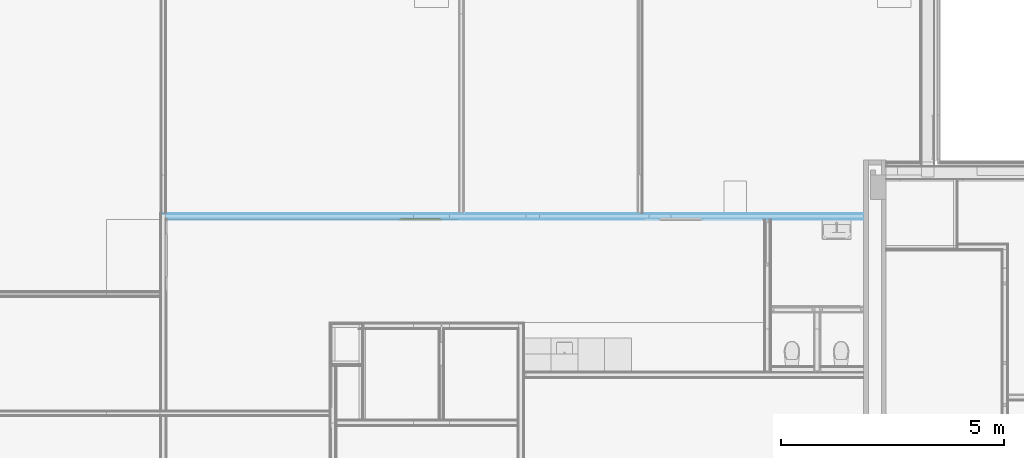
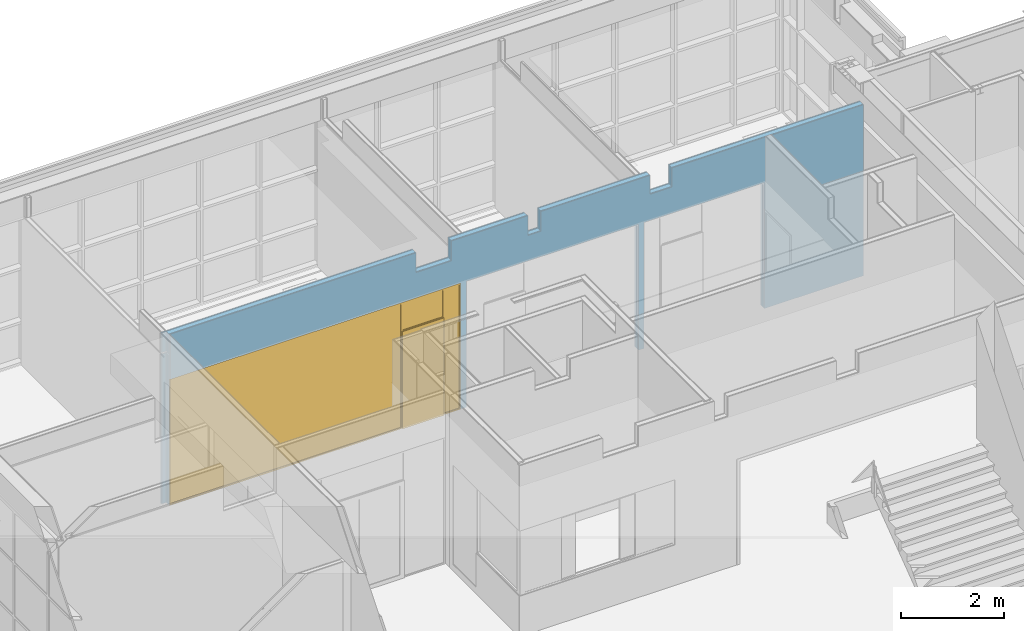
# One storey, part 48 of 109: 1 door, 3 openings, 1 element without a shape of its own, plus 5 elements that do not belong to this part.
"""IFC2X3 building model written with IfcOpenShell, lengths in millimetres."""

from ifc_helpers import new_model, entity, si_unit, converted_unit, derived_unit, money_unit, direction, frame, origin_with_axes, place, context, subcontext, project, spatial, open_shell, faceted_brep, surface_model, material, type_object, element, fill, aggregate, save


model = new_model("IFC2X3")

# Units and contexts
model_context = context("Model", 3, precision=0.01, world=origin_with_axes(), true_north=direction((0.0, 1.0)))
body_context = subcontext(model_context, "Body", "Model", "MODEL_VIEW")
ifc_project = project(units=[si_unit("LENGTHUNIT", "METRE", prefix="MILLI"), si_unit("AREAUNIT", "SQUARE_METRE"), si_unit("VOLUMEUNIT", "CUBIC_METRE"), converted_unit("PLANEANGLEUNIT", "DEGREE", entity("IfcPlaneAngleMeasure", 0.0174532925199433), si_unit("PLANEANGLEUNIT", "RADIAN"), dimensions=[0, 0, 0, 0, 0, 0, 0]), money_unit("EUR"), converted_unit("TIMEUNIT", "Year", entity("IfcTimeMeasure", 31557600.0), si_unit("TIMEUNIT", "SECOND"), dimensions=[0, 0, 1, 0, 0, 0, 0]), si_unit("MASSUNIT", "GRAM", prefix="KILO"), si_unit("THERMODYNAMICTEMPERATUREUNIT", "DEGREE_CELSIUS"), si_unit("LUMINOUSINTENSITYUNIT", "LUMEN"), si_unit("ENERGYUNIT", "JOULE", prefix="MEGA"), derived_unit("THERMALCONDUCTANCEUNIT", [(si_unit("POWERUNIT", "WATT"), 1), (si_unit("LENGTHUNIT", "METRE"), -1), (si_unit("THERMODYNAMICTEMPERATUREUNIT", "KELVIN"), -1)]), derived_unit("SPECIFICHEATCAPACITYUNIT", [(si_unit("ENERGYUNIT", "JOULE"), 1), (si_unit("MASSUNIT", "GRAM", prefix="KILO"), -1), (si_unit("THERMODYNAMICTEMPERATUREUNIT", "KELVIN"), -1)]), derived_unit("MASSDENSITYUNIT", [(si_unit("MASSUNIT", "GRAM", prefix="KILO"), 1), (si_unit("VOLUMEUNIT", "CUBIC_METRE"), -1)])], contexts=[model_context])

# Site, building, storey
site_placement = place(None, origin_with_axes())
site = spatial("IfcSite", under=ifc_project, at=site_placement, Name="<site naam>", CompositionType="ELEMENT")
building_placement = place(site_placement, origin_with_axes())
building = spatial("IfcBuilding", under=site, at=building_placement, Name="<Naam gebouw>", CompositionType="ELEMENT")
storey_placement = place(building_placement, origin_with_axes())
storey = spatial("IfcBuildingStorey", under=building, at=storey_placement, Name="00 Begane grond", CompositionType="ELEMENT", Elevation=0.0)

# Door
door_style = type_object("IfcDoorStyle", Name="D1 bl zl2 27", ConstructionType="NOTDEFINED", OperationType="USERDEFINED", ParameterTakesPrecedence=False, Sizeable=False)
wall_placement = place(storey_placement, frame((11665.00000000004, 18999.99999999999, 0.0), z_axis=(0.0, 0.0, 1.0), x_axis=(-1.0, 0.0, 0.0)))
opening_2_placement = place(wall_placement, frame((12331.66666666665, 0.0, 0.0), z_axis=(0.0, 0.0, 1.0), x_axis=(1.0, 0.0, 0.0)))
door_placement = place(opening_2_placement, frame((-3270.833333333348, 0.0, 0.0), z_axis=(0.0, 0.0, 1.0), x_axis=(1.0, 0.0, 0.0)))
door = element("IfcDoor", 1, at=door_placement, inside=storey, type_object=door_style, Name="22_BI-F-04_305", ObjectType="DOOR", OverallHeight=3000.0, OverallWidth=6541.67, context=body_context, shape_type="SurfaceModel", body=[
    faceted_brep([(1317.0, -39.99999999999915, 0.0), (1300.0, -39.99999999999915, 0.0), (1300.0, -39.99999999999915, 11.99999999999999), (1317.0, -39.99999999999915, 11.99999999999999), (383.0000000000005, -39.99999999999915, 0.0), (400.0000000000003, -39.99999999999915, 0.0), (400.0000000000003, -19.99999999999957, 0.0), (1300.0, -19.99999999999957, 0.0), (1300.0, -19.99999999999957, 11.99999999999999), (400.0000000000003, -19.99999999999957, 11.99999999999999), (400.0000000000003, -39.99999999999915, 11.99999999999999), (383.0000000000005, -39.99999999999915, 11.99999999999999)], [[[0, 1, 2, 3]], [[0, 4, 5, 6, 7, 1]], [[1, 7, 8, 2]], [[3, 2, 8, 9, 10, 11]], [[4, 0, 3, 11]], [[5, 4, 11, 10]], [[6, 5, 10, 9]], [[7, 6, 9, 8]]]),
    faceted_brep([(6541.666666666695, 0.0, 0.0), (6541.666666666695, -19.99999999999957, 0.0), (6508.666666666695, -19.99999999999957, 0.0), (6508.666666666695, 0.0, 0.0), (6541.666666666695, 0.0, 2967.0), (6541.666666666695, -19.99999999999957, 2967.0), (6508.666666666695, -19.99999999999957, 2967.0), (6508.666666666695, -19.99999999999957, 32.99999999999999), (6508.666666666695, 0.0, 32.99999999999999), (6508.666666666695, 0.0, 2967.0)], [[[0, 1, 2, 3]], [[4, 5, 1, 0]], [[1, 5, 6, 7, 2]], [[3, 2, 7, 8]], [[0, 3, 8, 9, 4]], [[9, 6, 5, 4]], [[8, 7, 6, 9]]]),
    faceted_brep([(1317.0, -19.99999999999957, 0.0), (1342.0, -19.99999999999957, 0.0), (1342.0, -19.99999999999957, 32.99999999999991), (1342.0, -19.99999999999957, 2967.0), (1300.0, -19.99999999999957, 2967.0), (1300.0, -19.99999999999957, 2333.0), (1300.0, -19.99999999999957, 2317.0), (1317.0, -19.99999999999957, 2317.0), (1317.0, 0.0, 0.0), (1342.0, 0.0, 0.0), (1342.0, 0.0, 32.99999999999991), (1342.0, 0.0, 2967.0), (1300.0, 0.0, 2967.0), (1300.0, 0.0, 2333.0), (1300.0, 0.0, 2317.0), (1317.0, 0.0, 2317.0)], [[[0, 1, 2, 3, 4, 5, 6, 7]], [[8, 9, 1, 0]], [[9, 10, 2, 1]], [[10, 11, 3, 2]], [[11, 12, 4, 3]], [[12, 13, 5, 4]], [[6, 5, 13, 14]], [[14, 15, 7, 6]], [[7, 15, 8, 0]], [[15, 14, 13, 12, 11, 10, 9, 8]]]),
    faceted_brep([(6508.666666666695, 0.0, 32.99999999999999), (6508.666666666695, -19.99999999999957, 32.99999999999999), (6508.666666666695, -19.99999999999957, 0.0), (6508.666666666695, 0.0, 0.0), (1342.0, 0.0, 32.99999999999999), (1342.0, -19.99999999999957, 32.99999999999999), (1342.0, -19.99999999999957, 0.0), (1342.0, 0.0, 0.0)], [[[0, 1, 2, 3]], [[4, 5, 1, 0]], [[1, 5, 6, 2]], [[3, 2, 6, 7]], [[0, 3, 7, 4]], [[7, 6, 5, 4]]]),
    faceted_brep([(0.0, 0.0, 0.0), (0.0, -19.99999999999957, 0.0), (0.0, -19.99999999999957, 2967.0), (0.0, 0.0, 2967.0), (32.99999999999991, 0.0, 0.0), (32.99999999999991, -19.99999999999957, 0.0), (32.99999999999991, -19.99999999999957, 32.99999999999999), (32.99999999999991, -19.99999999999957, 2967.0), (32.99999999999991, 0.0, 2967.0), (32.99999999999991, 0.0, 32.99999999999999)], [[[0, 1, 2, 3]], [[4, 5, 1, 0]], [[1, 5, 6, 7, 2]], [[3, 2, 7, 8]], [[0, 3, 8, 9, 4]], [[9, 6, 5, 4]], [[8, 7, 6, 9]]]),
    faceted_brep([(383.0000000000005, -19.99999999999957, 2317.0), (400.0000000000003, -19.99999999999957, 2317.0), (400.0000000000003, -19.99999999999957, 2333.0), (400.0000000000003, -19.99999999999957, 2967.0), (358.0000000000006, -19.99999999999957, 2967.0), (358.0000000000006, -19.99999999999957, 32.99999999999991), (358.0000000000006, -19.99999999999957, 0.0), (383.0000000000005, -19.99999999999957, 0.0), (383.0000000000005, 0.0, 2317.0), (400.0000000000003, 0.0, 2317.0), (400.0000000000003, 0.0, 2333.0), (400.0000000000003, 0.0, 2967.0), (358.0000000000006, 0.0, 2967.0), (358.0000000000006, 0.0, 32.99999999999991), (358.0000000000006, 0.0, 0.0), (383.0000000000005, 0.0, 0.0)], [[[0, 1, 2, 3, 4, 5, 6, 7]], [[0, 8, 9, 1]], [[9, 10, 2, 1]], [[10, 11, 3, 2]], [[11, 12, 4, 3]], [[12, 13, 5, 4]], [[13, 14, 6, 5]], [[7, 6, 14, 15]], [[7, 15, 8, 0]], [[8, 15, 14, 13, 12, 11, 10, 9]]]),
    faceted_brep([(358.0000000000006, 0.0, 32.99999999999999), (358.0000000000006, -19.99999999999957, 32.99999999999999), (358.0000000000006, -19.99999999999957, 0.0), (358.0000000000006, 0.0, 0.0), (32.99999999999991, 0.0, 32.99999999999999), (32.99999999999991, -19.99999999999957, 32.99999999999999), (32.99999999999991, -19.99999999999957, 0.0), (32.99999999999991, 0.0, 0.0)], [[[0, 1, 2, 3]], [[4, 5, 1, 0]], [[1, 5, 6, 2]], [[3, 2, 6, 7]], [[0, 3, 7, 4]], [[7, 6, 5, 4]]]),
    faceted_brep([(6541.666666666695, 0.0, 3000.0), (6541.666666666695, -19.99999999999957, 3000.0), (6541.666666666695, -19.99999999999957, 2967.0), (6541.666666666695, 0.0, 2967.0), (0.0, 0.0, 3000.0), (0.0, -19.99999999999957, 3000.0), (0.0, -19.99999999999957, 2967.0), (32.99999999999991, -19.99999999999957, 2967.0), (358.0000000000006, -19.99999999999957, 2967.0), (400.0000000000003, -19.99999999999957, 2967.0), (1300.0, -19.99999999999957, 2967.0), (1342.0, -19.99999999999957, 2967.0), (6508.666666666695, -19.99999999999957, 2967.0), (6508.666666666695, 0.0, 2967.0), (1342.0, 0.0, 2967.0), (1300.0, 0.0, 2967.0), (400.0000000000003, 0.0, 2967.0), (358.0000000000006, 0.0, 2967.0), (32.99999999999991, 0.0, 2967.0), (0.0, 0.0, 2967.0)], [[[0, 1, 2, 3]], [[4, 5, 1, 0]], [[1, 5, 6, 7, 8, 9, 10, 11, 12, 2]], [[3, 2, 12, 13]], [[0, 3, 13, 14, 15, 16, 17, 18, 19, 4]], [[19, 6, 5, 4]], [[18, 7, 6, 19]], [[17, 8, 7, 18]], [[16, 9, 8, 17]], [[15, 10, 9, 16]], [[14, 11, 10, 15]], [[13, 12, 11, 14]]]),
    faceted_brep([(1300.0, -19.99999999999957, 2317.0), (1300.0, -19.99999999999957, 2333.0), (400.0000000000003, -19.99999999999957, 2333.0), (400.0000000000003, -19.99999999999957, 2317.0), (1300.0, 0.0, 2317.0), (1300.0, 0.0, 2333.0), (400.0000000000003, 0.0, 2333.0), (400.0000000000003, 0.0, 2317.0)], [[[0, 1, 2, 3]], [[4, 5, 1, 0]], [[5, 6, 2, 1]], [[3, 2, 6, 7]], [[7, 4, 0, 3]], [[7, 6, 5, 4]]]),
    faceted_brep([(383.0000000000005, 18.00000000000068, 0.0), (1317.0, 18.00000000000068, 0.0), (1317.0, -21.99999999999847, 0.0), (383.0000000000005, -21.99999999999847, 0.0), (383.0000000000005, 18.00000000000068, 2317.0), (1317.0, 18.00000000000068, 2317.0), (1317.0, -21.99999999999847, 2317.0), (383.0000000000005, -21.99999999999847, 2317.0)], [[[0, 1, 2, 3]], [[0, 4, 5, 1]], [[1, 5, 6, 2]], [[3, 2, 6, 7]], [[4, 0, 3, 7]], [[5, 4, 7, 6]]]),
    surface_model("IfcShellBasedSurfaceModel", [(1300.0, -25.9999999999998, 2333.0), (1300.0, -25.9999999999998, 2967.0), (400.0000000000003, -25.9999999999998, 2967.0), (400.0000000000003, -25.9999999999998, 2333.0)], [open_shell([[[0, 1, 2, 3]]])]),
    surface_model("IfcShellBasedSurfaceModel", [(1300.0, -13.99999999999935, 2333.0), (400.0000000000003, -13.99999999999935, 2333.0), (400.0000000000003, -13.99999999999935, 2967.0), (1300.0, -13.99999999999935, 2967.0)], [open_shell([[[0, 1, 2, 3]]])]),
    surface_model("IfcShellBasedSurfaceModel", [(6508.666666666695, -25.9999999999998, 32.99999999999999), (6508.666666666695, -25.9999999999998, 2967.0), (1342.0, -25.9999999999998, 2967.0), (1342.0, -25.9999999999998, 32.99999999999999)], [open_shell([[[0, 1, 2, 3]]])]),
    surface_model("IfcShellBasedSurfaceModel", [(6508.666666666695, -13.99999999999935, 32.99999999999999), (1342.0, -13.99999999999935, 32.99999999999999), (1342.0, -13.99999999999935, 2967.0), (6508.666666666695, -13.99999999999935, 2967.0)], [open_shell([[[0, 1, 2, 3]]])]),
    surface_model("IfcShellBasedSurfaceModel", [(358.0000000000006, -25.9999999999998, 32.99999999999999), (358.0000000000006, -25.9999999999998, 2967.0), (33.00000000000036, -25.9999999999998, 2967.0), (33.00000000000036, -25.9999999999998, 32.99999999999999)], [open_shell([[[0, 1, 2, 3]]])]),
    surface_model("IfcShellBasedSurfaceModel", [(358.0000000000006, -13.99999999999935, 32.99999999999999), (33.00000000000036, -13.99999999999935, 32.99999999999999), (33.00000000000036, -13.99999999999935, 2967.0), (358.0000000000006, -13.99999999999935, 2967.0)], [open_shell([[[0, 1, 2, 3]]])]),
])

# Wall, openings
wall_type = type_object("IfcWallType", Name="MS-01 GF 150 ECO DGS/2.100.2.A 150", PredefinedType="NOTDEFINED")
wall = element("IfcWall", 2, at=wall_placement, inside=storey, type_object=wall_type, Name="22_Binnenwand_MS-01")
opening_1_placement = place(wall_placement, frame((3581.926295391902, 0.0, 0.0), z_axis=(0.0, 0.0, 1.0), x_axis=(1.0, 0.0, 0.0)))
element("IfcOpeningElement", 3, at=opening_1_placement, cuts=wall, Name="22_BI-F-07_305", context=body_context, shape_type="Brep", body=[
    faceted_brep([(-1353.907037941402, -150.9999999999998, 3000.0), (-1353.907037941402, -150.9999999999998, 0.0), (1353.907037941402, -150.9999999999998, 0.0), (1353.907037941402, -150.9999999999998, 3000.0), (-1353.907037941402, 1.000000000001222, 3000.0), (-1353.907037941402, 1.000000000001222, 0.0), (1353.907037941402, 1.000000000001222, 0.0), (1353.907037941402, 1.000000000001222, 3000.0)], [[[0, 1, 2, 3]], [[4, 5, 1, 0]], [[5, 6, 2, 1]], [[6, 7, 3, 2]], [[7, 4, 0, 3]], [[6, 5, 4, 7]]]),
])
opening_2 = element("IfcOpeningElement", 4, at=opening_2_placement, cuts=wall, Name="22_BI-F-04_305", context=body_context, shape_type="Brep", body=[
    faceted_brep([(-3270.833333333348, -151.0000000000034, 3000.0), (-3270.833333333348, -151.0000000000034, 0.0), (3270.833333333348, -151.0000000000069, 0.0), (3270.833333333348, -151.0000000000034, 3000.0), (-3270.833333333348, 1.000000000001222, 3000.0), (-3270.833333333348, 1.000000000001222, 0.0), (3270.833333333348, 0.9999999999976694, 0.0), (3270.833333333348, 1.000000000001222, 3000.0)], [[[0, 1, 2, 3]], [[4, 5, 1, 0]], [[5, 6, 2, 1]], [[6, 7, 3, 2]], [[7, 4, 0, 3]], [[6, 5, 4, 7]]]),
])

fill(opening_2, door)

# Opening
opening_3_placement = place(wall_placement, frame((6998.333333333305, 0.0, 0.0), z_axis=(0.0, 0.0, 1.0), x_axis=(1.0, 0.0, 0.0)))
element("IfcOpeningElement", 5, at=opening_3_placement, cuts=wall, Name="22_BI-F-05_305", context=body_context, shape_type="Brep", body=[
    faceted_brep([(-1937.499999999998, -150.9999999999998, 3000.0), (-1937.499999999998, -150.9999999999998, 0.0), (1937.499999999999, -150.9999999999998, 0.0), (1937.499999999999, -150.9999999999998, 3000.0), (-1937.499999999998, 1.000000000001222, 3000.0), (-1937.499999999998, 1.000000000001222, 0.0), (1937.499999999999, 1.000000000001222, 0.0), (1937.499999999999, 1.000000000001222, 3000.0)], [[[0, 1, 2, 3]], [[4, 5, 1, 0]], [[5, 6, 2, 1]], [[6, 7, 3, 2]], [[7, 4, 0, 3]], [[6, 5, 4, 7]]]),
])

# Building element part
ifc_material_1 = material(Name="gipsplaat")
building_element_part_1_placement = place(wall_placement, origin_with_axes())
building_element_part_1 = element("IfcBuildingElementPart", 6, at=building_element_part_1_placement, material=ifc_material_1, Name="gipsplaat", context=body_context, shape_type="Brep", body=[
    faceted_brep([(4802.5, -12.49999999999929, 4070.0), (4802.5, -12.49999999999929, 3620.0), (4302.5, -12.49999999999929, 3620.0), (4302.5, -12.49999999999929, 4070.0), (0.0, -12.49999999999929, 4070.0), (0.0, -12.49999999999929, 0.0), (2218.019240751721, -12.49999999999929, 0.0), (2218.019240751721, -12.49999999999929, 3.000000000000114), (4935.833333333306, -12.49999999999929, 3.000000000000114), (4935.833333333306, -12.49999999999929, 0.0), (5060.83331531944, -12.49999999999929, 0.0), (5060.83331531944, -12.49999999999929, 3.000000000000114), (8935.833333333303, -12.49999999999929, 3.000000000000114), (8935.833333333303, -12.49999999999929, 0.0), (9060.833333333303, -12.49999999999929, 0.0), (9060.833333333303, -12.49999999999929, 3.000000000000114), (15590.0, -12.49999999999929, 3.000000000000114), (15590.0, -12.49999999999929, 4070.0), (10065.00000000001, -12.49999999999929, 4070.0), (10065.00000000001, -12.49999999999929, 3600.0), (9265.000000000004, -12.49999999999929, 3600.0), (9265.000000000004, -12.49999999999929, 4070.0), (7550.000000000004, -12.49999999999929, 4070.0), (7550.000000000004, -12.49999999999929, 3600.0), (7250.000000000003, -12.49999999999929, 3600.0), (7250.000000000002, -12.49999999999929, 4070.0), (4802.5, 0.0, 3620.0), (4802.5, 0.0, 4070.0), (4302.5, 0.0, 3620.0), (4302.5, 0.0, 4070.0), (0.0, 0.0, 4070.0), (0.0, 0.0, 0.0), (2218.019240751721, 0.0, 0.0), (2218.019240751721, 0.0, 3.000000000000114), (4935.833333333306, 0.0, 3.000000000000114), (4935.833333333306, 0.0, 0.0), (5060.83331531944, 0.005247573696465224, 0.0), (5060.83331531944, 0.005247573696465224, 3.000000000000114), (8935.833333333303, 7.570282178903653e-06, 3.000000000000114), (8935.833333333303, 7.570282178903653e-06, 0.0), (9060.833333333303, 0.0, 0.0), (9060.833333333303, 0.0, 3.000000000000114), (15589.99999996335, -0.01546946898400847, 3.000000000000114), (15590.0, 0.0, 4070.0), (10065.00000000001, 0.0, 4070.0), (10065.00000000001, 0.0, 3600.0), (9265.000000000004, 0.0, 3600.0), (9265.000000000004, 0.0, 4070.0), (7550.000000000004, 0.0, 4070.0), (7550.000000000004, 0.0, 3600.0), (7250.000000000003, 0.0, 3600.0), (7250.000000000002, 0.0, 4070.0)], [[[0, 1, 2, 3, 4, 5, 6, 7, 8, 9, 10, 11, 12, 13, 14, 15, 16, 17, 18, 19, 20, 21, 22, 23, 24, 25]], [[26, 1, 0, 27]], [[28, 2, 1, 26]], [[28, 29, 3, 2]], [[4, 3, 29, 30]], [[4, 30, 31, 5]], [[31, 32, 6, 5]], [[33, 7, 6, 32]], [[34, 8, 7, 33]], [[35, 9, 8, 34]], [[36, 10, 9, 35]], [[11, 10, 36, 37]], [[12, 11, 37, 38]], [[13, 12, 38, 39]], [[14, 13, 39, 40]], [[14, 40, 41, 15]], [[15, 41, 42, 16]], [[42, 43, 17, 16]], [[17, 43, 44, 18]], [[44, 45, 19, 18]], [[45, 46, 20, 19]], [[20, 46, 47, 21]], [[21, 47, 48, 22]], [[48, 49, 23, 22]], [[49, 50, 24, 23]], [[24, 50, 51, 25]], [[51, 27, 0, 25]], [[28, 26, 27, 51, 50, 49, 48, 47, 46, 45, 44, 43, 34, 33, 32, 31, 30, 29]], [[36, 35, 34, 37]], [[39, 38, 37, 43, 42, 41, 40]], [[37, 34, 43]]]),
])

building_element_part_2_placement = place(wall_placement, origin_with_axes())
building_element_part_2 = element("IfcBuildingElementPart", 7, at=building_element_part_2_placement, material=ifc_material_1, Name="gipsplaat", context=body_context, shape_type="Brep", body=[
    faceted_brep([(4802.5, -24.99999999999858, 4070.0), (4802.5, -25.00000000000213, 3620.0), (4302.5, -25.00000000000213, 3620.0), (4302.5, -24.99999999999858, 4070.0), (0.0, -24.99999999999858, 4070.0), (0.0, -24.99999999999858, 0.0), (2218.019240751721, -24.99999999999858, 0.0), (2218.019240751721, -25.00000000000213, 3.000000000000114), (4935.833333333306, -25.00000000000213, 3.000000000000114), (4935.833333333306, -24.99999999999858, 0.0), (5060.83331531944, -24.99999999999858, 0.0), (5060.83331531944, -25.00000000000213, 3.000000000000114), (8935.833333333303, -25.00000000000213, 3.000000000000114), (8935.833333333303, -25.00000000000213, 0.0), (9060.833333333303, -25.00000000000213, 0.0), (9060.833333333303, -25.00000000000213, 3.000000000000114), (15602.5, -25.00000000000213, 3.000000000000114), (15602.5, -25.00000000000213, 3560.0), (15590.0000000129, -25.00000000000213, 3560.0), (15590.0000000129, -25.00000000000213, 3600.0), (15602.5, -25.00000000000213, 3600.0), (15602.5, -25.00000000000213, 4070.0), (10065.00000000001, -24.99999999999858, 4070.0), (10065.00000000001, -25.00000000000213, 3600.0), (9265.000000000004, -25.00000000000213, 3600.0), (9265.000000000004, -24.99999999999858, 4070.0), (7550.000000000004, -24.99999999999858, 4070.0), (7550.000000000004, -25.00000000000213, 3600.0), (7250.000000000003, -25.00000000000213, 3600.0), (7250.000000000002, -24.99999999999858, 4070.0), (4802.5, -12.49999999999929, 3620.0), (4802.5, -12.49999999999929, 4070.0), (4302.5, -12.49999999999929, 3620.0), (4302.5, -12.49999999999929, 4070.0), (0.0, -12.49999999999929, 4070.0), (0.0, -12.49999999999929, 0.0), (2218.019240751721, -12.49999999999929, 0.0), (2218.019240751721, -12.49999999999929, 3.000000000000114), (4935.833333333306, -12.49999999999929, 3.000000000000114), (4935.833333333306, -12.49999999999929, 0.0), (5060.83331531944, -12.49999999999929, 0.0), (5060.83331531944, -12.49999999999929, 3.000000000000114), (8935.833333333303, -12.49999999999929, 3.000000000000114), (8935.833333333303, -12.49999999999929, 0.0), (9060.833333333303, -12.49999999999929, 0.0), (9060.833333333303, -12.49999999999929, 3.000000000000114), (15602.5, -12.49999999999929, 3.000000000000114), (15602.5, -12.49999999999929, 3560.0), (15589.99999999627, -12.49999999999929, 3560.0), (15589.99999999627, -12.49999999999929, 3600.0), (15602.5, -12.49999999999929, 3600.0), (15602.5, -12.49999999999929, 4070.0), (10065.00000000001, -12.49999999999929, 4070.0), (10065.00000000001, -12.49999999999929, 3600.0), (9265.000000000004, -12.49999999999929, 3600.0), (9265.000000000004, -12.49999999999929, 4070.0), (7550.000000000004, -12.49999999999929, 4070.0), (7550.000000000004, -12.49999999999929, 3600.0), (7250.000000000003, -12.49999999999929, 3600.0), (7250.000000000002, -12.49999999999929, 4070.0)], [[[0, 1, 2, 3, 4, 5, 6, 7, 8, 9, 10, 11, 12, 13, 14, 15, 16, 17, 18, 19, 20, 21, 22, 23, 24, 25, 26, 27, 28, 29]], [[30, 1, 0, 31]], [[32, 2, 1, 30]], [[32, 33, 3, 2]], [[4, 3, 33, 34]], [[4, 34, 35, 5]], [[6, 5, 35, 36]], [[6, 36, 37, 7]], [[7, 37, 38, 8]], [[8, 38, 39, 9]], [[10, 9, 39, 40]], [[10, 40, 41, 11]], [[11, 41, 42, 12]], [[12, 42, 43, 13]], [[14, 13, 43, 44]], [[14, 44, 45, 15]], [[15, 45, 46, 16]], [[17, 16, 46, 47]], [[17, 47, 48, 18]], [[18, 48, 49, 19]], [[19, 49, 50, 20]], [[50, 51, 21, 20]], [[21, 51, 52, 22]], [[52, 53, 23, 22]], [[53, 54, 24, 23]], [[24, 54, 55, 25]], [[25, 55, 56, 26]], [[56, 57, 27, 26]], [[57, 58, 28, 27]], [[28, 58, 59, 29]], [[59, 31, 0, 29]], [[32, 30, 31, 59, 58, 57, 56, 55, 54, 53, 52, 51, 50, 49, 48, 47, 46, 45, 44, 43, 42, 41, 40, 39, 38, 37, 36, 35, 34, 33]]]),
])

building_element_part_3_placement = place(wall_placement, origin_with_axes())
building_element_part_3 = element("IfcBuildingElementPart", 8, at=building_element_part_3_placement, material=ifc_material_1, Name="gipsplaat", context=body_context, shape_type="Brep", body=[
    faceted_brep([(4802.5, -137.4999999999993, 4070.0), (4802.5, -137.4999999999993, 3620.0), (4302.5, -137.4999999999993, 3620.0), (4302.5, -137.4999999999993, 4070.0), (0.0, -137.4999999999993, 4070.0), (0.0, -137.4999999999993, 0.0), (2218.019240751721, -137.4999999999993, 0.0), (2218.019240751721, -137.4999999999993, 3.000000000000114), (4935.833333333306, -137.4999999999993, 3.000000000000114), (4935.833333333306, -137.4999999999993, 0.0), (5060.83331531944, -137.4999999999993, 0.0), (5060.83331531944, -137.4999999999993, 3.000000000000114), (8935.833333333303, -137.4999999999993, 3.000000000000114), (8935.833333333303, -137.4999999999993, 0.0), (9060.833333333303, -137.4999999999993, 0.0), (9060.833333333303, -137.4999999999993, 3.000000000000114), (15602.5, -137.4999999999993, 3.000000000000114), (15602.5, -137.4999999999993, 0.0), (15715.0, -137.4999999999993, 0.0), (15715.0, -137.4999999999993, 3560.0), (15590.00000016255, -137.4999999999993, 3560.0), (15590.00000016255, -137.4999999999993, 3600.0), (15715.0, -137.4999999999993, 3600.0), (15715.0, -137.4999999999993, 4070.0), (10065.00000000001, -137.4999999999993, 4070.0), (10065.00000000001, -137.4999999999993, 3600.0), (9265.000000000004, -137.4999999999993, 3600.0), (9265.000000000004, -137.4999999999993, 4070.0), (7550.000000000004, -137.4999999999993, 4070.0), (7550.000000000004, -137.4999999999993, 3600.0), (7250.000000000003, -137.4999999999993, 3600.0), (7250.000000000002, -137.4999999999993, 4070.0), (4802.5, -125.0, 3620.0), (4802.5, -125.0, 4070.0), (4302.5, -125.0, 3620.0), (4302.5, -125.0, 4070.0), (0.0, -125.0, 4070.0), (0.0, -125.0, 0.0), (2218.019240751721, -125.0, 0.0), (2218.019240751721, -125.0, 3.000000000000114), (4935.833333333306, -125.0, 3.000000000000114), (4935.833333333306, -125.0, 0.0), (5060.83331531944, -125.0, 0.0), (5060.83331531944, -125.0, 3.000000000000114), (8935.833333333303, -125.0, 3.000000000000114), (8935.833333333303, -125.0, 0.0), (9060.833333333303, -125.0, 0.0), (9060.833333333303, -125.0, 3.000000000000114), (15602.5, -125.0, 3.000000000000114), (15602.5, -125.0, 0.0), (15715.0, -125.0, 0.0), (15715.0, -125.0, 3560.0), (15590.00000014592, -125.0, 3560.0), (15590.00000014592, -125.0, 3600.0), (15715.0, -125.0, 3600.0), (15715.0, -125.0, 4070.0), (10065.00000000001, -125.0, 4070.0), (10065.00000000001, -125.0, 3600.0), (9265.000000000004, -125.0, 3600.0), (9265.000000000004, -125.0, 4070.0), (7550.000000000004, -125.0, 4070.0), (7550.000000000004, -125.0, 3600.0), (7250.000000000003, -125.0, 3600.0), (7250.000000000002, -125.0, 4070.0)], [[[0, 1, 2, 3, 4, 5, 6, 7, 8, 9, 10, 11, 12, 13, 14, 15, 16, 17, 18, 19, 20, 21, 22, 23, 24, 25, 26, 27, 28, 29, 30, 31]], [[32, 1, 0, 33]], [[34, 2, 1, 32]], [[34, 35, 3, 2]], [[4, 3, 35, 36]], [[4, 36, 37, 5]], [[6, 5, 37, 38]], [[6, 38, 39, 7]], [[7, 39, 40, 8]], [[8, 40, 41, 9]], [[10, 9, 41, 42]], [[10, 42, 43, 11]], [[11, 43, 44, 12]], [[12, 44, 45, 13]], [[14, 13, 45, 46]], [[14, 46, 47, 15]], [[15, 47, 48, 16]], [[16, 48, 49, 17]], [[49, 50, 18, 17]], [[19, 18, 50, 51]], [[19, 51, 52, 20]], [[20, 52, 53, 21]], [[21, 53, 54, 22]], [[54, 55, 23, 22]], [[23, 55, 56, 24]], [[56, 57, 25, 24]], [[57, 58, 26, 25]], [[26, 58, 59, 27]], [[27, 59, 60, 28]], [[60, 61, 29, 28]], [[61, 62, 30, 29]], [[30, 62, 63, 31]], [[63, 33, 0, 31]], [[34, 32, 33, 63, 62, 61, 60, 59, 58, 57, 56, 55, 54, 53, 52, 51, 50, 49, 48, 47, 46, 45, 44, 43, 42, 41, 40, 39, 38, 37, 36, 35]]]),
])

ifc_material_2 = material(Name="isolatie_steenwol LSW")
building_element_part_4_placement = place(wall_placement, origin_with_axes())
building_element_part_4 = element("IfcBuildingElementPart", 9, at=building_element_part_4_placement, material=ifc_material_2, Name="isolatie_steenwol LSW", context=body_context, shape_type="Brep", body=[
    faceted_brep([(4802.5, -125.0, 4070.0), (4802.5, -125.0, 3620.0), (4302.5, -125.0, 3620.0), (4302.5, -125.0, 4070.0), (0.0, -125.0, 4070.0), (0.0, -125.0, 0.0), (2218.019240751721, -125.0, 0.0), (2218.019240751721, -125.0, 3.000000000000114), (4935.833333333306, -125.0, 3.000000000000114), (4935.833333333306, -125.0, 0.0), (5060.83331531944, -125.0, 0.0), (5060.83331531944, -125.0, 3.000000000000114), (8935.833333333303, -125.0, 3.000000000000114), (8935.833333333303, -125.0, 0.0), (9060.833333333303, -125.0, 0.0), (9060.833333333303, -125.0, 3.000000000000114), (15602.5, -125.0, 3.000000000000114), (15602.5, -125.0, 0.0), (15615.0, -125.0, 0.0), (15615.0, -125.0, 3560.0), (15590.00000014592, -125.0, 3560.0), (15590.00000014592, -125.0, 3600.0), (15615.0, -125.0, 3600.0), (15615.0, -125.0, 4070.0), (10065.00000000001, -125.0, 4070.0), (10065.00000000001, -125.0, 3600.0), (9265.000000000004, -125.0, 3600.0), (9265.000000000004, -125.0, 4070.0), (7550.000000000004, -125.0, 4070.0), (7550.000000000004, -125.0, 3600.0), (7250.000000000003, -125.0, 3600.0), (7250.000000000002, -125.0, 4070.0), (4802.5, -25.00000000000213, 3620.0), (4802.5, -24.99999999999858, 4070.0), (4302.5, -25.00000000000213, 3620.0), (4302.5, -24.99999999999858, 4070.0), (0.0, -24.99999999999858, 4070.0), (0.0, -24.99999999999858, 0.0), (2218.019240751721, -24.99999999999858, 0.0), (2218.019240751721, -25.00000000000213, 3.000000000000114), (4935.833333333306, -25.00000000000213, 3.000000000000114), (4935.833333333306, -24.99999999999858, 0.0), (5060.83331531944, -24.99999999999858, 0.0), (5060.83331531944, -25.00000000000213, 3.000000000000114), (8935.833333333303, -25.00000000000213, 3.000000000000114), (8935.833333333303, -24.99999999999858, 0.0), (9060.833333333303, -24.99999999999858, 0.0), (9060.833333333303, -25.00000000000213, 3.000000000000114), (15602.5, -25.00000000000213, 3.000000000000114), (15602.5, -25.00000000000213, 0.0), (15615.0, -25.00000000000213, 0.0), (15615.0, -25.00000000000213, 3560.0), (15590.0000000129, -25.00000000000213, 3560.0), (15590.0000000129, -25.00000000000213, 3600.0), (15615.0, -25.00000000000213, 3600.0), (15615.0, -25.00000000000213, 4070.0), (10065.00000000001, -24.99999999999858, 4070.0), (10065.00000000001, -25.00000000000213, 3600.0), (9265.000000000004, -25.00000000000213, 3600.0), (9265.000000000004, -24.99999999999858, 4070.0), (7550.000000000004, -24.99999999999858, 4070.0), (7550.000000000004, -25.00000000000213, 3600.0), (7250.000000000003, -25.00000000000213, 3600.0), (7250.000000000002, -24.99999999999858, 4070.0)], [[[0, 1, 2, 3, 4, 5, 6, 7, 8, 9, 10, 11, 12, 13, 14, 15, 16, 17, 18, 19, 20, 21, 22, 23, 24, 25, 26, 27, 28, 29, 30, 31]], [[32, 1, 0, 33]], [[34, 2, 1, 32]], [[34, 35, 3, 2]], [[4, 3, 35, 36]], [[4, 36, 37, 5]], [[6, 5, 37, 38]], [[6, 38, 39, 7]], [[7, 39, 40, 8]], [[8, 40, 41, 9]], [[10, 9, 41, 42]], [[10, 42, 43, 11]], [[11, 43, 44, 12]], [[12, 44, 45, 13]], [[14, 13, 45, 46]], [[14, 46, 47, 15]], [[15, 47, 48, 16]], [[16, 48, 49, 17]], [[49, 50, 18, 17]], [[19, 18, 50, 51]], [[19, 51, 52, 20]], [[20, 52, 53, 21]], [[21, 53, 54, 22]], [[54, 55, 23, 22]], [[23, 55, 56, 24]], [[56, 57, 25, 24]], [[57, 58, 26, 25]], [[26, 58, 59, 27]], [[27, 59, 60, 28]], [[60, 61, 29, 28]], [[61, 62, 30, 29]], [[30, 62, 63, 31]], [[63, 33, 0, 31]], [[34, 32, 33, 63, 62, 61, 60, 59, 58, 57, 56, 55, 54, 53, 52, 51, 50, 49, 48, 47, 46, 45, 44, 43, 42, 41, 40, 39, 38, 37, 36, 35]]]),
])

building_element_part_5_placement = place(wall_placement, origin_with_axes())
building_element_part_5 = element("IfcBuildingElementPart", 10, at=building_element_part_5_placement, material=ifc_material_1, Name="gipsplaat", context=body_context, shape_type="Brep", body=[
    faceted_brep([(4802.5, -149.9999999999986, 4070.0), (4802.5, -150.0000000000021, 3620.0), (4302.5, -150.0000000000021, 3620.0), (4302.5, -149.9999999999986, 4070.0), (0.0, -149.9999999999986, 4070.0), (0.0, -149.9999999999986, 0.0), (2218.019240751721, -149.9999999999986, 0.0), (2218.019240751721, -150.0000000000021, 3.000000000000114), (4935.833333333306, -150.0000000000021, 3.000000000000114), (4935.833333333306, -149.9999999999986, 0.0), (5060.83331531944, -149.9999999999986, 0.0), (5060.83331531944, -150.0000000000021, 3.000000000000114), (8935.833333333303, -150.0000000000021, 3.000000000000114), (8935.833333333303, -149.9999999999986, 0.0), (9060.833333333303, -149.9999999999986, 0.0), (9060.833333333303, -150.0000000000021, 3.000000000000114), (15602.5, -150.0000000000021, 3.000000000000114), (15602.5, -150.0000000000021, 0.0), (15727.5, -150.0000000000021, 0.0), (15727.5, -150.0000000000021, 3560.0), (15590.00000017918, -150.0000006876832, 3560.0), (15590.00000017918, -150.0000006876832, 3600.0), (15727.5, -150.0000000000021, 3600.0), (15727.5, -150.0000000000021, 4070.0), (10065.00000000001, -149.9999999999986, 4070.0), (10065.00000000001, -150.0000000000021, 3600.0), (9265.000000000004, -150.0000000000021, 3600.0), (9265.000000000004, -149.9999999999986, 4070.0), (7550.000000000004, -149.9999999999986, 4070.0), (7550.000000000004, -150.0000000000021, 3600.0), (7250.000000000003, -150.0000000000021, 3600.0), (7250.000000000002, -149.9999999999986, 4070.0), (4802.5, -137.4999999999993, 3620.0), (4802.5, -137.4999999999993, 4070.0), (4302.5, -137.4999999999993, 3620.0), (4302.5, -137.4999999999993, 4070.0), (0.0, -137.4999999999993, 4070.0), (0.0, -137.4999999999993, 0.0), (2218.019240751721, -137.4999999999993, 0.0), (2218.019240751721, -137.4999999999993, 3.000000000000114), (4935.833333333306, -137.4999999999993, 3.000000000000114), (4935.833333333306, -137.4999999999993, 0.0), (5060.83331531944, -137.4999999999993, 0.0), (5060.83331531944, -137.4999999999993, 3.000000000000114), (8935.833333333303, -137.4999999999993, 3.000000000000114), (8935.833333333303, -137.4999999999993, 0.0), (9060.833333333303, -137.4999999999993, 0.0), (9060.833333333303, -137.4999999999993, 3.000000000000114), (15602.5, -137.4999999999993, 3.000000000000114), (15602.5, -137.4999999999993, 0.0), (15727.5, -137.4999999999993, 0.0), (15727.5, -137.4999999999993, 3560.0), (15590.00000016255, -137.4999999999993, 3560.0), (15590.00000016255, -137.4999999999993, 3600.0), (15727.5, -137.4999999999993, 3600.0), (15727.5, -137.4999999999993, 4070.0), (10065.00000000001, -137.4999999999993, 4070.0), (10065.00000000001, -137.4999999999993, 3600.0), (9265.000000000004, -137.4999999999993, 3600.0), (9265.000000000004, -137.4999999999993, 4070.0), (7550.000000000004, -137.4999999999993, 4070.0), (7550.000000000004, -137.4999999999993, 3600.0), (7250.000000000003, -137.4999999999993, 3600.0), (7250.000000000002, -137.4999999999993, 4070.0)], [[[0, 1, 2, 3, 4, 5, 6, 7, 8, 9, 10, 11, 12, 13, 14, 15, 16, 17, 18, 19, 20, 21, 22, 23, 24, 25, 26, 27, 28, 29, 30, 31]], [[32, 1, 0, 33]], [[34, 2, 1, 32]], [[34, 35, 3, 2]], [[4, 3, 35, 36]], [[5, 4, 36, 37]], [[6, 5, 37, 38]], [[6, 38, 39, 7]], [[7, 39, 40, 8]], [[8, 40, 41, 9]], [[10, 9, 41, 42]], [[10, 42, 43, 11]], [[11, 43, 44, 12]], [[12, 44, 45, 13]], [[14, 13, 45, 46]], [[14, 46, 47, 15]], [[15, 47, 48, 16]], [[16, 48, 49, 17]], [[49, 50, 18, 17]], [[19, 18, 50, 51]], [[19, 51, 52, 20]], [[20, 52, 53, 21]], [[21, 53, 54, 22]], [[54, 55, 23, 22]], [[23, 55, 56, 24]], [[56, 57, 25, 24]], [[57, 58, 26, 25]], [[26, 58, 59, 27]], [[27, 59, 60, 28]], [[60, 61, 29, 28]], [[61, 62, 30, 29]], [[30, 62, 63, 31]], [[63, 33, 0, 31]], [[34, 32, 33, 63, 62, 61, 60, 59, 58, 57, 56, 55, 54, 53, 52, 51, 50, 49, 48, 47, 46, 45, 44, 43, 42, 41, 40, 39, 38, 37, 36, 35]]]),
])

aggregate(wall, [building_element_part_1, building_element_part_2, building_element_part_3, building_element_part_4, building_element_part_5])

save(model, "model.ifc")
